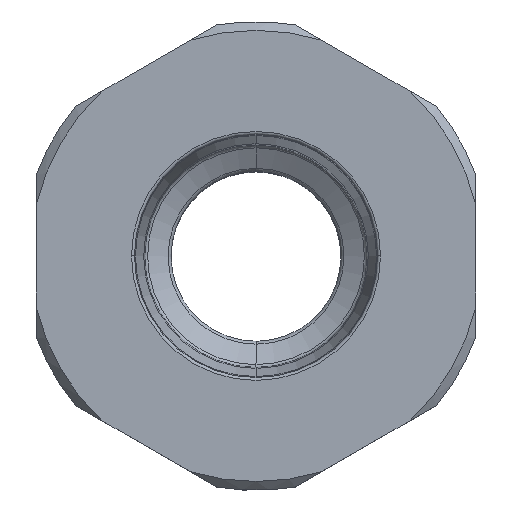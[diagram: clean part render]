
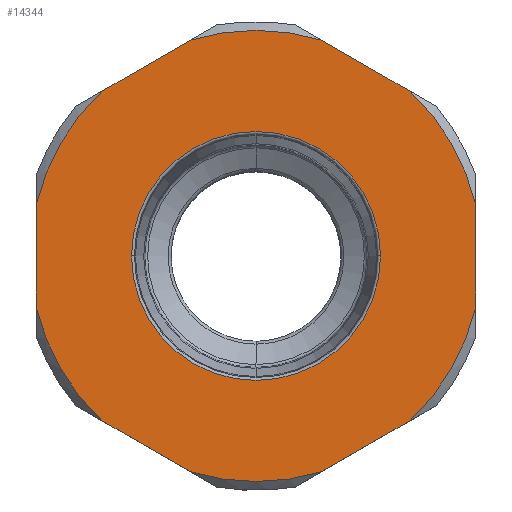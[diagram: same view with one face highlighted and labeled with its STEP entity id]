
A CAD part, top view. The second image highlights one B-rep face of the part: STEP entity #14344.
In plain terms, the highlighted planar face has unit normal (0, 0, 1).
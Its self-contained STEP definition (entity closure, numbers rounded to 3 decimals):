
#3434=DIRECTION('',(0.,1.,0.));
#3435=VECTOR('',#3434,3.487);
#3436=CARTESIAN_POINT('',(-7.5,-1.744,0.));
#3437=LINE('',#3436,#3435);
#3466=DIRECTION('',(0.,-1.,0.));
#3467=VECTOR('',#3466,3.487);
#3468=CARTESIAN_POINT('',(7.5,1.744,0.));
#3469=LINE('',#3468,#3467);
#3517=CARTESIAN_POINT('',(0.,0.,0.));
#3518=DIRECTION('',(0.,0.,1.));
#3519=DIRECTION('',(0.683,-0.73,0.));
#3520=AXIS2_PLACEMENT_3D('',#3517,#3518,#3519);
#3522=DIRECTION('',(0.866,0.5,0.));
#3523=VECTOR('',#3522,3.487);
#3524=CARTESIAN_POINT('',(2.24,-7.367,0.));
#3525=LINE('',#3524,#3523);
#3526=CARTESIAN_POINT('',(0.,0.,0.));
#3527=DIRECTION('',(0.,0.,1.));
#3528=DIRECTION('',(-0.291,-0.957,0.));
#3529=AXIS2_PLACEMENT_3D('',#3526,#3527,#3528);
#3531=DIRECTION('',(0.866,-0.5,0.));
#3532=VECTOR('',#3531,3.487);
#3533=CARTESIAN_POINT('',(-5.26,-5.623,0.));
#3534=LINE('',#3533,#3532);
#3535=CARTESIAN_POINT('',(0.,0.,0.));
#3536=DIRECTION('',(0.,0.,1.));
#3537=DIRECTION('',(-0.974,-0.226,0.));
#3538=AXIS2_PLACEMENT_3D('',#3535,#3536,#3537);
#3540=CARTESIAN_POINT('',(0.,0.,0.));
#3541=DIRECTION('',(0.,0.,1.));
#3542=DIRECTION('',(-0.683,0.73,0.));
#3543=AXIS2_PLACEMENT_3D('',#3540,#3541,#3542);
#3545=DIRECTION('',(-0.866,-0.5,0.));
#3546=VECTOR('',#3545,3.487);
#3547=CARTESIAN_POINT('',(-2.24,7.367,0.));
#3548=LINE('',#3547,#3546);
#3549=CARTESIAN_POINT('',(0.,0.,0.));
#3550=DIRECTION('',(0.,0.,1.));
#3551=DIRECTION('',(0.291,0.957,0.));
#3552=AXIS2_PLACEMENT_3D('',#3549,#3550,#3551);
#3554=DIRECTION('',(-0.866,0.5,0.));
#3555=VECTOR('',#3554,3.487);
#3556=CARTESIAN_POINT('',(5.26,5.623,0.));
#3557=LINE('',#3556,#3555);
#3558=CARTESIAN_POINT('',(0.,0.,0.));
#3559=DIRECTION('',(0.,0.,1.));
#3560=DIRECTION('',(0.974,0.226,0.));
#3561=AXIS2_PLACEMENT_3D('',#3558,#3559,#3560);
#3563=CARTESIAN_POINT('',(0.,0.,0.));
#3564=DIRECTION('',(0.,0.,-1.));
#3565=DIRECTION('',(1.,0.,0.));
#3566=AXIS2_PLACEMENT_3D('',#3563,#3564,#3565);
#3568=CARTESIAN_POINT('',(0.,0.,0.));
#3569=DIRECTION('',(0.,0.,-1.));
#3570=DIRECTION('',(-1.,0.,0.));
#3571=AXIS2_PLACEMENT_3D('',#3568,#3569,#3570);
#3623=CARTESIAN_POINT('',(-5.26,5.623,0.));
#3635=CARTESIAN_POINT('',(2.24,7.367,0.));
#3647=CARTESIAN_POINT('',(-2.24,7.367,0.));
#3666=CARTESIAN_POINT('',(5.26,5.623,0.));
#5120=CARTESIAN_POINT('',(-7.5,-1.744,0.));
#5121=CARTESIAN_POINT('',(-5.26,-5.623,0.));
#5122=VERTEX_POINT('',#5120);
#5123=VERTEX_POINT('',#5121);
#5150=VERTEX_POINT('',#3666);
#5290=CARTESIAN_POINT('',(5.26,-5.623,0.));
#5291=CARTESIAN_POINT('',(7.5,-1.744,0.));
#5292=VERTEX_POINT('',#5290);
#5293=VERTEX_POINT('',#5291);
#5309=VERTEX_POINT('',#3623);
#5320=VERTEX_POINT('',#3647);
#5350=CARTESIAN_POINT('',(7.5,1.744,0.));
#5351=VERTEX_POINT('',#5350);
#5423=CARTESIAN_POINT('',(-2.24,-7.367,0.));
#5424=CARTESIAN_POINT('',(2.24,-7.367,0.));
#5425=VERTEX_POINT('',#5423);
#5426=VERTEX_POINT('',#5424);
#5431=CARTESIAN_POINT('',(-7.5,1.744,0.));
#5432=VERTEX_POINT('',#5431);
#5434=VERTEX_POINT('',#3635);
#5507=CARTESIAN_POINT('',(-4.25,0.,0.));
#5508=VERTEX_POINT('',#5507);
#5526=CARTESIAN_POINT('',(4.25,0.,0.));
#5527=VERTEX_POINT('',#5526);
#14314=CARTESIAN_POINT('',(0.,0.,0.));
#14315=DIRECTION('',(0.,0.,1.));
#14316=DIRECTION('',(1.,0.,0.));
#14317=AXIS2_PLACEMENT_3D('',#14314,#14315,#14316);
#14318=PLANE('',#14317);
#14319=ORIENTED_EDGE('',*,*,#14200,.T.);
#14321=ORIENTED_EDGE('',*,*,#14320,.F.);
#14322=ORIENTED_EDGE('',*,*,#14237,.F.);
#14324=ORIENTED_EDGE('',*,*,#14323,.F.);
#14325=ORIENTED_EDGE('',*,*,#14274,.F.);
#14326=ORIENTED_EDGE('',*,*,#14308,.F.);
#14327=ORIENTED_EDGE('',*,*,#14088,.T.);
#14329=ORIENTED_EDGE('',*,*,#14328,.F.);
#14330=ORIENTED_EDGE('',*,*,#14126,.F.);
#14332=ORIENTED_EDGE('',*,*,#14331,.F.);
#14333=ORIENTED_EDGE('',*,*,#14163,.F.);
#14335=ORIENTED_EDGE('',*,*,#14334,.F.);
#14336=EDGE_LOOP('',(#14319,#14321,#14322,#14324,#14325,#14326,#14327,#14329,
#14330,#14332,#14333,#14335));
#14337=FACE_OUTER_BOUND('',#14336,.F.);
#14339=ORIENTED_EDGE('',*,*,#14338,.F.);
#14341=ORIENTED_EDGE('',*,*,#14340,.F.);
#14342=EDGE_LOOP('',(#14339,#14341));
#14343=FACE_BOUND('',#14342,.F.);
#14344=ADVANCED_FACE('',(#14337,#14343),#14318,.T.);
#3521=CIRCLE('',#3520,7.7);
#3530=CIRCLE('',#3529,7.7);
#3539=CIRCLE('',#3538,7.7);
#3544=CIRCLE('',#3543,7.7);
#3553=CIRCLE('',#3552,7.7);
#3562=CIRCLE('',#3561,7.7);
#3567=CIRCLE('',#3566,4.25);
#3572=CIRCLE('',#3571,4.25);
#14088=EDGE_CURVE('',#5122,#5432,#3437,.T.);
#14126=EDGE_CURVE('',#5320,#5309,#3548,.T.);
#14163=EDGE_CURVE('',#5150,#5434,#3557,.T.);
#14200=EDGE_CURVE('',#5351,#5293,#3469,.T.);
#14237=EDGE_CURVE('',#5426,#5292,#3525,.T.);
#14274=EDGE_CURVE('',#5123,#5425,#3534,.T.);
#14308=EDGE_CURVE('',#5122,#5123,#3539,.T.);
#14320=EDGE_CURVE('',#5292,#5293,#3521,.T.);
#14323=EDGE_CURVE('',#5425,#5426,#3530,.T.);
#14328=EDGE_CURVE('',#5309,#5432,#3544,.T.);
#14331=EDGE_CURVE('',#5434,#5320,#3553,.T.);
#14334=EDGE_CURVE('',#5351,#5150,#3562,.T.);
#14338=EDGE_CURVE('',#5527,#5508,#3567,.T.);
#14340=EDGE_CURVE('',#5508,#5527,#3572,.T.);
